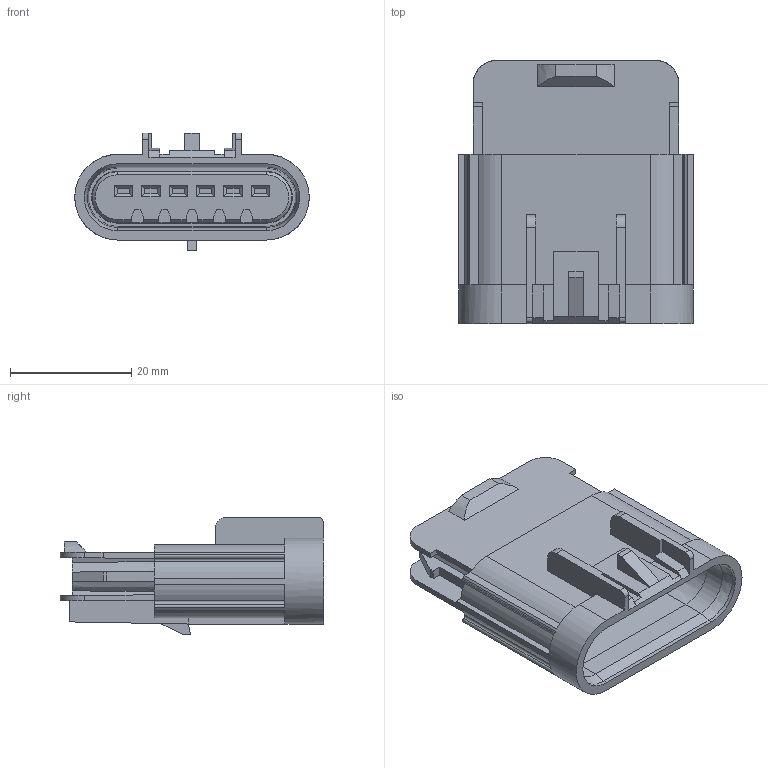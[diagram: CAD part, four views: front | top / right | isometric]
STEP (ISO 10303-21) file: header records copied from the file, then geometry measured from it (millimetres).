
FILE_DESCRIPTION(/* description */ (''),/* implementation_level */ '2;1');
FILE_NAME(/* name */ '15397579-ENV1001.stp',/* time_stamp */ '2019-07-22T16:23:30+06:00',/* author */ (''),/* organization */ (''),/* preprocessor_version */ 'ST-DEVELOPER v16',/* originating_system */ 'SIEMENS PLM Software NX 11.0',/* authorisation */ '');
FILE_SCHEMA (('AUTOMOTIVE_DESIGN { 1 0 10303 214 3 1 1 1 }'));
Length unit declared in the file: millimetre
Products named in the file (1): 15397579-ENV10_01-CONN
Bounding box: 38.6 x 43.4 x 19.41 mm (x, y, z)
Volume: 10619.8 mm3; surface area: 9090 mm2
Topology: 1 solids, 1 shells, 265 faces, 715 edges, 462 vertices
Faces by surface type: plane 217, cylinder 30, cone 18
Entity records: 8220 total; most frequent: CARTESIAN_POINT 1488, ORIENTED_EDGE 1430, DIRECTION 1334, EDGE_CURVE 715, LINE 602, VECTOR 602, VERTEX_POINT 462, AXIS2_PLACEMENT_3D 366
